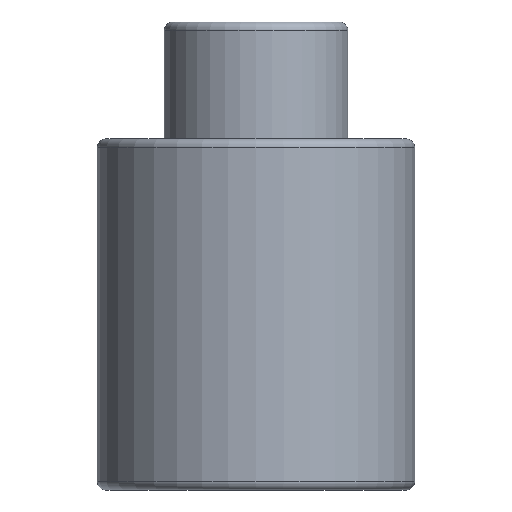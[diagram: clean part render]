
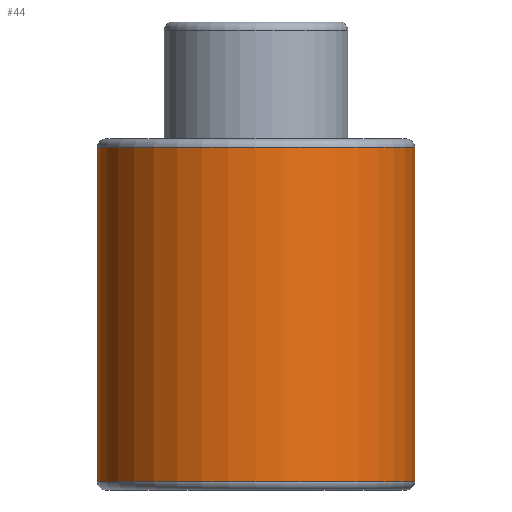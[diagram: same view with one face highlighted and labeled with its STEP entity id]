
A CAD part, front view. The second image highlights one B-rep face of the part: STEP entity #44.
In plain terms, the highlighted cylindrical face has radius 19 mm (diameter 38 mm), a full revolution.
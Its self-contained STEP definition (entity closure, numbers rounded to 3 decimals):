
#44=ADVANCED_FACE('',(#60,#61),#56,.T.);
#56=CYLINDRICAL_SURFACE('',#166,19.);
#60=FACE_BOUND('',#84,.T.);
#61=FACE_BOUND('',#85,.T.);
#84=EDGE_LOOP('',(#106));
#85=EDGE_LOOP('',(#107));
#106=ORIENTED_EDGE('',*,*,#141,.F.);
#107=ORIENTED_EDGE('',*,*,#142,.T.);
#128=VERTEX_POINT('',#237);
#129=VERTEX_POINT('',#239);
#141=EDGE_CURVE('',#128,#128,#152,.T.);
#142=EDGE_CURVE('',#129,#129,#153,.T.);
#152=CIRCLE('',#164,19.);
#153=CIRCLE('',#165,19.);
#164=AXIS2_PLACEMENT_3D('',#236,#189,#190);
#165=AXIS2_PLACEMENT_3D('',#238,#191,#192);
#166=AXIS2_PLACEMENT_3D('',#240,#193,#194);
#189=DIRECTION('',(0.,0.,-1.));
#190=DIRECTION('',(-1.,0.,0.));
#191=DIRECTION('',(0.,0.,-1.));
#192=DIRECTION('',(-1.,0.,0.));
#193=DIRECTION('',(0.,0.,-1.));
#194=DIRECTION('',(-1.,0.,0.));
#236=CARTESIAN_POINT('',(0.,0.,1.));
#237=CARTESIAN_POINT('',(-19.,0.,1.));
#238=CARTESIAN_POINT('',(0.,0.,41.));
#239=CARTESIAN_POINT('',(-19.,0.,41.));
#240=CARTESIAN_POINT('',(0.,0.,0.));
